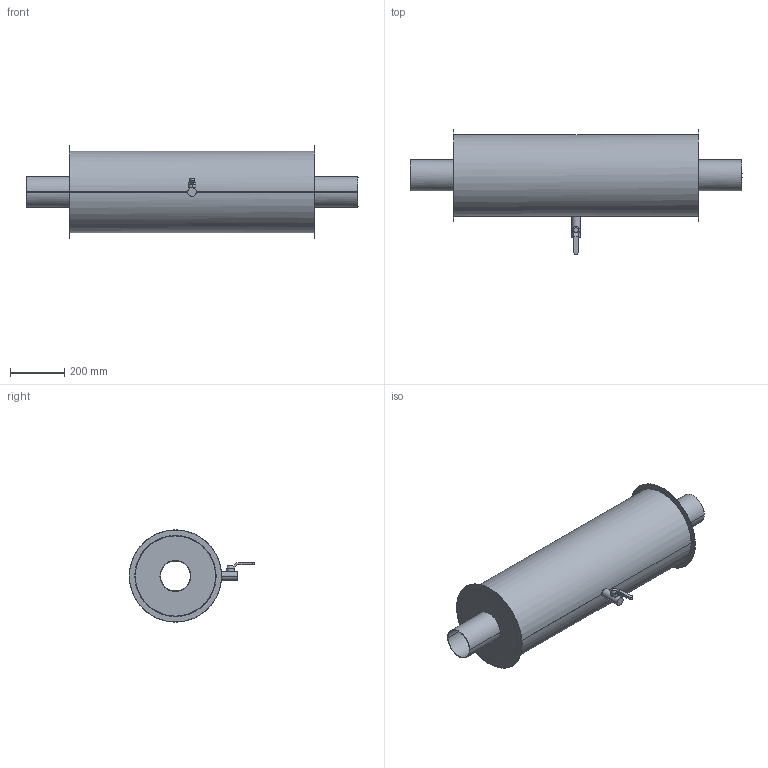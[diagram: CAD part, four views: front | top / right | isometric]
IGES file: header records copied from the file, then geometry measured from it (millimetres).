
Start section:  PTC IGES file: 51548401.igs
Global section: file name: 51548401.igs; native system: Creo Parametric by PTC Inc.; preprocessor: 2019224; author: slc; organization: Unknown; date: 20201030.084429; units: millimetre
Bounding box: 1225 x 462 x 339.76 mm (x, y, z)
Surface area: 2257158.6 mm2 (no closed solid volume)
Topology: 0 solids, 0 shells, 43 faces, 170 edges, 170 vertices
Faces by surface type: revolution 23, bspline 20
